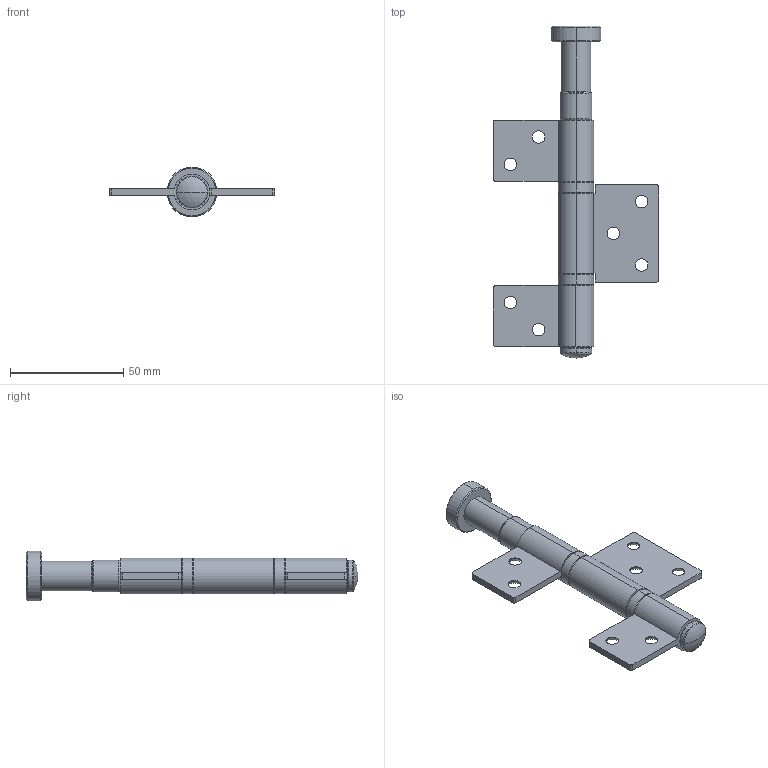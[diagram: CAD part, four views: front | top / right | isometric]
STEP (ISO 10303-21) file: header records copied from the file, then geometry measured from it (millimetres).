
FILE_DESCRIPTION (( 'STEP AP214' ), '1' );
FILE_NAME ('F3 Straight Intermediate Guide - Open.STEP', '2024-07-09T03:13:03', ( '' ), ( '' ), 'SwSTEP 2.0', 'SolidWorks 2023', '' );
FILE_SCHEMA (( 'AUTOMOTIVE_DESIGN' ));
Length unit declared in the file: millimetre
Products named in the file (5): F3 Straight Intermediate Guide - Open; Straight flap middle; Straight intermediate guide body; Straight flap bottom; Straight flap top
Assembly tree (4 placements, depth 2):
  F3 Straight Intermediate Guide - Open
    Straight intermediate guide body
    Straight flap middle
    Straight flap top
    Straight flap bottom
Bounding box: 73 x 146.5 x 22 mm (x, y, z)
Volume: 34458.1 mm3; surface area: 20447.7 mm2
Topology: 4 solids, 4 shells, 122 faces, 280 edges, 173 vertices
Faces by surface type: cylinder 53, cone 28, plane 27, torus 12, sphere 2
Entity records: 3670 total; most frequent: DIRECTION 698, CARTESIAN_POINT 582, ORIENTED_EDGE 560, AXIS2_PLACEMENT_3D 289, EDGE_CURVE 280, VERTEX_POINT 173, CIRCLE 160, EDGE_LOOP 149
